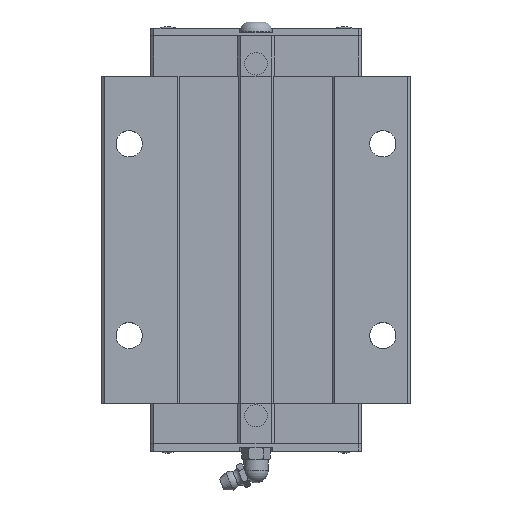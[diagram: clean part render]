
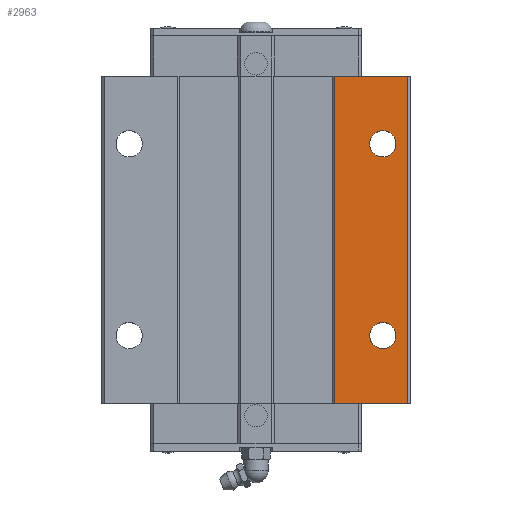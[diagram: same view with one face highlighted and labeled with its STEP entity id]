
A CAD part, top view. The second image highlights one B-rep face of the part: STEP entity #2963.
In plain terms, the highlighted planar face has unit normal (0, 0, 1).
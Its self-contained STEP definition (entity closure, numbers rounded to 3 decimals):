
#2125=VERTEX_POINT('',#6135);
#2171=EDGE_CURVE('',#3911,#2285,#6188,.T.);
#2285=VERTEX_POINT('',#6313);
#2401=VERTEX_POINT('',#6443);
#2491=EDGE_CURVE('',#2401,#4253,#6542,.T.);
#2907=EDGE_CURVE('',#4621,#2125,#6999,.T.);
#2963=ADVANCED_FACE('',(#7059,#7060,#7061),#7062,.T.);
#3119=EDGE_CURVE('',#2125,#4621,#7234,.T.);
#3911=VERTEX_POINT('',#8105);
#4253=VERTEX_POINT('',#8485);
#4391=VERTEX_POINT('',#8631);
#4621=VERTEX_POINT('',#8882);
#4631=EDGE_CURVE('',#4391,#4253,#8892,.T.);
#4871=EDGE_CURVE('',#2285,#3911,#9147,.T.);
#5393=EDGE_CURVE('',#4391,#5509,#9726,.T.);
#5509=VERTEX_POINT('',#9849);
#5695=EDGE_CURVE('',#5509,#2401,#10053,.T.);
#6135=CARTESIAN_POINT('',(36.75,99.4,48.0));
#6188=CIRCLE('',#10682,4.25);
#6313=CARTESIAN_POINT('',(45.25,37.4,48.0));
#6443=CARTESIAN_POINT('',(25.25,15.5,48.0));
#6542=LINE('',#11277,#11278);
#6999=CIRCLE('',#11978,4.25);
#7059=FACE_OUTER_BOUND('',#12085,.T.);
#7060=FACE_BOUND('',#12086,.T.);
#7061=FACE_BOUND('',#12087,.T.);
#7062=PLANE('',#12088);
#7234=CIRCLE('',#12324,4.25);
#8105=CARTESIAN_POINT('',(36.75,37.4,48.0));
#8485=CARTESIAN_POINT('',(49.0,15.5,48.0));
#8631=CARTESIAN_POINT('',(49.0,121.3,48.0));
#8882=CARTESIAN_POINT('',(45.25,99.4,48.0));
#8892=LINE('',#15103,#15104);
#9147=CIRCLE('',#15611,4.25);
#9726=LINE('',#16571,#16572);
#9849=CARTESIAN_POINT('',(25.25,121.3,48.0));
#10053=LINE('',#17094,#17095);
#10682=AXIS2_PLACEMENT_3D('',#17873,#17874,#17875);
#11277=CARTESIAN_POINT('',(49.0,15.5,48.0));
#11278=VECTOR('',#18291,1.0);
#11978=AXIS2_PLACEMENT_3D('',#18791,#18792,#18793);
#12085=EDGE_LOOP('',(#18845,#18846,#18847,#18848));
#12086=EDGE_LOOP('',(#18849,#18850));
#12087=EDGE_LOOP('',(#18851,#18852));
#12088=AXIS2_PLACEMENT_3D('',#18853,#18854,#18855);
#12324=AXIS2_PLACEMENT_3D('',#19034,#19035,#19036);
#15103=CARTESIAN_POINT('',(49.0,121.3,48.0));
#15104=VECTOR('',#20920,1.0);
#15611=AXIS2_PLACEMENT_3D('',#21125,#21126,#21127);
#16571=CARTESIAN_POINT('',(49.0,121.3,48.0));
#16572=VECTOR('',#21744,1.0);
#17094=CARTESIAN_POINT('',(25.25,147.75,48.0));
#17095=VECTOR('',#22034,1.0);
#17873=CARTESIAN_POINT('',(41.0,37.4,48.0));
#17874=DIRECTION('',(0.0,0.0,-1.0));
#17875=DIRECTION('',(1.0,0.0,0.0));
#18291=DIRECTION('',(1.0,0.0,0.0));
#18791=CARTESIAN_POINT('',(41.0,99.4,48.0));
#18792=DIRECTION('',(0.0,0.0,-1.0));
#18793=DIRECTION('',(1.0,0.0,0.0));
#18845=ORIENTED_EDGE('',*,*,#5695,.T.);
#18846=ORIENTED_EDGE('',*,*,#2491,.T.);
#18847=ORIENTED_EDGE('',*,*,#4631,.F.);
#18848=ORIENTED_EDGE('',*,*,#5393,.T.);
#18849=ORIENTED_EDGE('',*,*,#2907,.T.);
#18850=ORIENTED_EDGE('',*,*,#3119,.T.);
#18851=ORIENTED_EDGE('',*,*,#4871,.T.);
#18852=ORIENTED_EDGE('',*,*,#2171,.T.);
#18853=CARTESIAN_POINT('',(-49.0,121.3,48.0));
#18854=DIRECTION('',(0.0,0.0,1.0));
#18855=DIRECTION('',(-1.0,0.0,0.0));
#19034=CARTESIAN_POINT('',(41.0,99.4,48.0));
#19035=DIRECTION('',(0.0,0.0,-1.0));
#19036=DIRECTION('',(1.0,0.0,0.0));
#20920=DIRECTION('',(0.0,-1.0,0.0));
#21125=CARTESIAN_POINT('',(41.0,37.4,48.0));
#21126=DIRECTION('',(0.0,0.0,-1.0));
#21127=DIRECTION('',(1.0,0.0,0.0));
#21744=DIRECTION('',(-1.0,0.0,0.0));
#22034=DIRECTION('',(0.0,-1.0,0.0));
